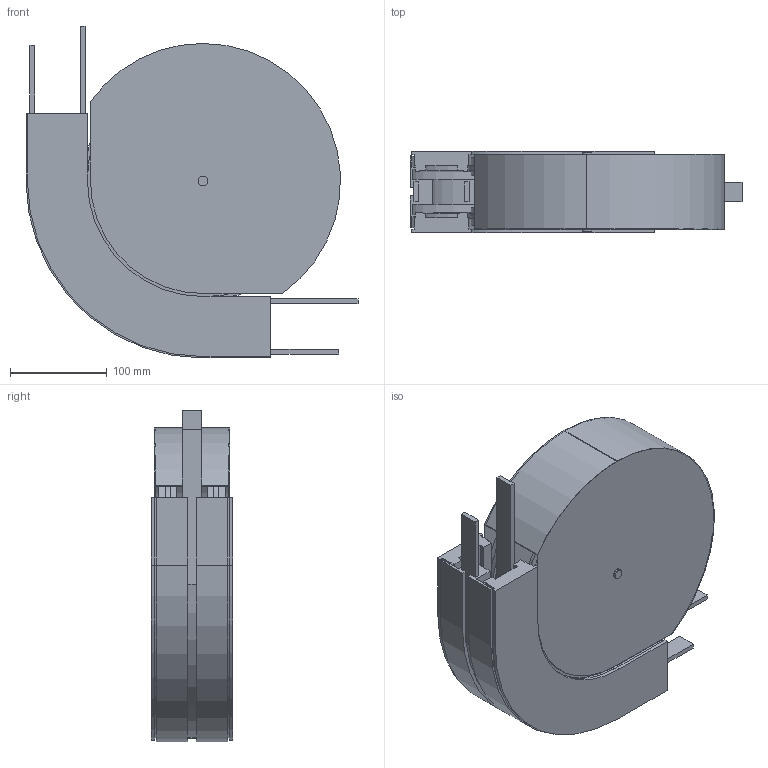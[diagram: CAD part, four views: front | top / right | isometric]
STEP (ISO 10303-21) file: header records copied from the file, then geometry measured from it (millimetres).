
FILE_DESCRIPTION (( 'STEP AP214' ), '1' );
FILE_NAME ('927720 CS65SL Draaischijfbocht 90 R150.STEP', '2017-12-21T08:29:59', ( '' ), ( '' ), 'SwSTEP 2.0', 'SolidWorks 2017', '' );
FILE_SCHEMA (( 'AUTOMOTIVE_DESIGN' ));
Length unit declared in the file: millimetre
Products named in the file (1): 927720 CS65SL Draaischijfbocht 90 R150
Bounding box: 342.5 x 84 x 342.5 mm (x, y, z)
Volume: 2873251.5 mm3; surface area: 758534.3 mm2
Topology: 3 solids, 3 shells, 180 faces, 478 edges, 312 vertices
Faces by surface type: plane 124, cylinder 52, cone 4
Entity records: 5610 total; most frequent: CARTESIAN_POINT 971, ORIENTED_EDGE 956, DIRECTION 948, EDGE_CURVE 478, LINE 370, VECTOR 370, VERTEX_POINT 312, AXIS2_PLACEMENT_3D 289
